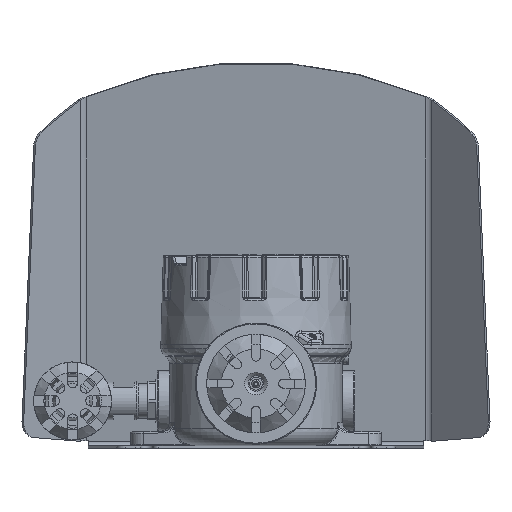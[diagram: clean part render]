
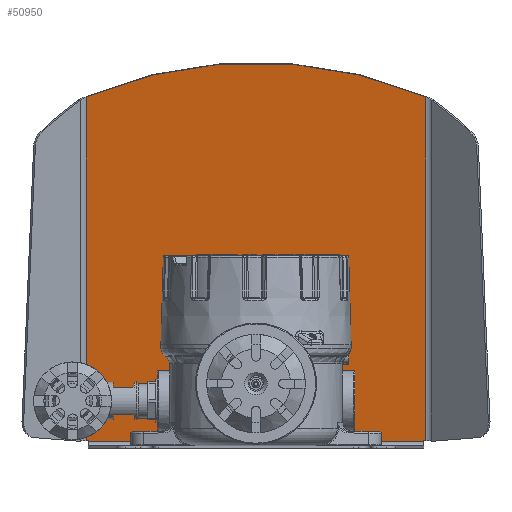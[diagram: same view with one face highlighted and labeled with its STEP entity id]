
A CAD part, front view. The second image highlights one B-rep face of the part: STEP entity #50950.
In plain terms, the highlighted planar face has unit normal (0, -0.985, -0.174) as drawn and (0, 0, 1) by its records, which use the part's own axes.
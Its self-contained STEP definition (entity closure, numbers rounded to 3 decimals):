
#50950=ADVANCED_FACE('',(#99815),#99817,.T.);
#99815=FACE_BOUND('',#99816,.T.);
#99816=EDGE_LOOP('',(#136940,#136941,#136942,#136943,#136944,#136945,#136946,#136947));
#99817=PLANE('',#99818);
#99818=AXIS2_PLACEMENT_3D('',#99819,#99820,#99821);
#99819=CARTESIAN_POINT('',(0.,0.,1.5));
#99820=DIRECTION('',(0.,0.,1.));
#99821=DIRECTION('',(1.,0.,0.));
#136940=ORIENTED_EDGE('',*,*,#152697,.T.);
#136941=ORIENTED_EDGE('',*,*,#152698,.T.);
#136942=ORIENTED_EDGE('',*,*,#152699,.T.);
#136943=ORIENTED_EDGE('',*,*,#152700,.T.);
#136944=ORIENTED_EDGE('',*,*,#152701,.T.);
#136945=ORIENTED_EDGE('',*,*,#152702,.F.);
#136946=ORIENTED_EDGE('',*,*,#152703,.T.);
#136947=ORIENTED_EDGE('',*,*,#152704,.T.);
#152697=EDGE_CURVE('',#178156,#178157,#178158,.T.);
#152698=EDGE_CURVE('',#178157,#178159,#178160,.T.);
#152699=EDGE_CURVE('',#178159,#178161,#178162,.T.);
#152700=EDGE_CURVE('',#178161,#178163,#178164,.T.);
#152701=EDGE_CURVE('',#178163,#178165,#178166,.T.);
#152702=EDGE_CURVE('',#178167,#178165,#178168,.T.);
#152703=EDGE_CURVE('',#178167,#178169,#178170,.T.);
#152704=EDGE_CURVE('',#178169,#178156,#178171,.T.);
#178156=VERTEX_POINT('',#283572);
#178157=VERTEX_POINT('',#283573);
#178158=LINE('',#283574,#283575);
#178159=VERTEX_POINT('',#283577);
#178160=LINE('',#283578,#283579);
#178161=VERTEX_POINT('',#283581);
#178162=LINE('',#283582,#283583);
#178163=VERTEX_POINT('',#283585);
#178164=LINE('',#283586,#283587);
#178165=VERTEX_POINT('',#283589);
#178166=CIRCLE('',#283590,250.);
#178167=VERTEX_POINT('',#283594);
#178168=LINE('',#283595,#283596);
#178169=VERTEX_POINT('',#283598);
#178170=LINE('',#283599,#283600);
#178171=LINE('',#283602,#283603);
#283572=CARTESIAN_POINT('',(-97.,-0.616,1.5));
#283573=CARTESIAN_POINT('',(97.,-0.616,1.5));
#283574=CARTESIAN_POINT('',(-97.,-0.616,1.5));
#283575=VECTOR('',#283576,1.);
#283576=DIRECTION('',(1.,0.,0.));
#283577=CARTESIAN_POINT('',(97.,0.,1.5));
#283578=CARTESIAN_POINT('',(97.,-0.616,1.5));
#283579=VECTOR('',#283580,1.);
#283580=DIRECTION('',(0.,1.,0.));
#283581=CARTESIAN_POINT('',(98.18,0.,1.5));
#283582=CARTESIAN_POINT('',(97.,0.,1.5));
#283583=VECTOR('',#283584,1.);
#283584=DIRECTION('',(1.,0.,0.));
#283585=CARTESIAN_POINT('',(98.18,201.914,1.5));
#283586=CARTESIAN_POINT('',(98.18,0.,1.5));
#283587=VECTOR('',#283588,1.);
#283588=DIRECTION('',(0.,1.,0.));
#283589=CARTESIAN_POINT('',(-98.18,201.914,1.5));
#283590=AXIS2_PLACEMENT_3D('',#283591,#283592,#283593);
#283591=CARTESIAN_POINT('',(0.,-28.,1.5));
#283592=DIRECTION('',(0.,0.,1.));
#283593=DIRECTION('',(0.393,0.92,0.));
#283594=CARTESIAN_POINT('',(-98.18,0.,1.5));
#283595=CARTESIAN_POINT('',(-98.18,0.,1.5));
#283596=VECTOR('',#283597,1.);
#283597=DIRECTION('',(0.,1.,0.));
#283598=CARTESIAN_POINT('',(-97.,0.,1.5));
#283599=CARTESIAN_POINT('',(-98.18,0.,1.5));
#283600=VECTOR('',#283601,1.);
#283601=DIRECTION('',(1.,0.,0.));
#283602=CARTESIAN_POINT('',(-97.,0.,1.5));
#283603=VECTOR('',#283604,1.);
#283604=DIRECTION('',(0.,-1.,0.));
